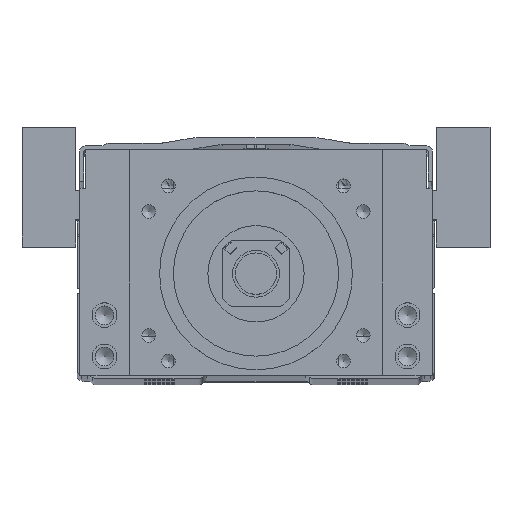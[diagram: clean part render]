
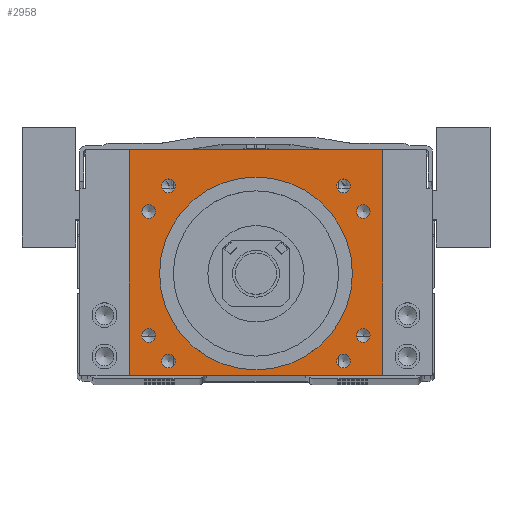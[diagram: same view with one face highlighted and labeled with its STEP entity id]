
A CAD part, top view. The second image highlights one B-rep face of the part: STEP entity #2958.
In plain terms, the highlighted planar face has unit normal (0, 0, 1).
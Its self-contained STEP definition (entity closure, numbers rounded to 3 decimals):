
#2958=ADVANCED_FACE('',(#7543,#7544,#7545,#7546,#7547,#7548,#7549,#7550,
#7551,#7552),#3894,.T.);
#3894=PLANE('',#20354);
#4349=LINE('',#26914,#5788);
#4946=LINE('',#30719,#6418);
#4947=LINE('',#30721,#6419);
#4948=LINE('',#30723,#6420);
#5788=VECTOR('',#21639,1.);
#6418=VECTOR('',#23633,1.);
#6419=VECTOR('',#23634,1.);
#6420=VECTOR('',#23635,1.);
#7543=FACE_BOUND('',#8873,.T.);
#7544=FACE_BOUND('',#8874,.T.);
#7545=FACE_BOUND('',#8875,.T.);
#7546=FACE_BOUND('',#8876,.T.);
#7547=FACE_BOUND('',#8877,.T.);
#7548=FACE_BOUND('',#8878,.T.);
#7549=FACE_BOUND('',#8879,.T.);
#7550=FACE_BOUND('',#8880,.T.);
#7551=FACE_BOUND('',#8881,.T.);
#7552=FACE_BOUND('',#8882,.T.);
#8873=EDGE_LOOP('',(#12047,#12048,#12049,#12050));
#8874=EDGE_LOOP('',(#12051));
#8875=EDGE_LOOP('',(#12052));
#8876=EDGE_LOOP('',(#12053));
#8877=EDGE_LOOP('',(#12054));
#8878=EDGE_LOOP('',(#12055));
#8879=EDGE_LOOP('',(#12056));
#8880=EDGE_LOOP('',(#12057));
#8881=EDGE_LOOP('',(#12058));
#8882=EDGE_LOOP('',(#12059));
#12047=ORIENTED_EDGE('',*,*,#17650,.T.);
#12048=ORIENTED_EDGE('',*,*,#16597,.T.);
#12049=ORIENTED_EDGE('',*,*,#17651,.T.);
#12050=ORIENTED_EDGE('',*,*,#17652,.T.);
#12051=ORIENTED_EDGE('',*,*,#17647,.F.);
#12052=ORIENTED_EDGE('',*,*,#17645,.T.);
#12053=ORIENTED_EDGE('',*,*,#17643,.T.);
#12054=ORIENTED_EDGE('',*,*,#17649,.F.);
#12055=ORIENTED_EDGE('',*,*,#17653,.F.);
#12056=ORIENTED_EDGE('',*,*,#17607,.T.);
#12057=ORIENTED_EDGE('',*,*,#17606,.T.);
#12058=ORIENTED_EDGE('',*,*,#17604,.T.);
#12059=ORIENTED_EDGE('',*,*,#17601,.T.);
#14776=VERTEX_POINT('',#26913);
#14777=VERTEX_POINT('',#26915);
#15488=VERTEX_POINT('',#30599);
#15492=VERTEX_POINT('',#30608);
#15495=VERTEX_POINT('',#30615);
#15496=VERTEX_POINT('',#30618);
#15522=VERTEX_POINT('',#30696);
#15525=VERTEX_POINT('',#30703);
#15528=VERTEX_POINT('',#30710);
#15531=VERTEX_POINT('',#30717);
#15532=VERTEX_POINT('',#30720);
#15533=VERTEX_POINT('',#30722);
#15534=VERTEX_POINT('',#30725);
#16597=EDGE_CURVE('',#14777,#14776,#4349,.T.);
#17601=EDGE_CURVE('',#15488,#15488,#19157,.T.);
#17604=EDGE_CURVE('',#15492,#15492,#19160,.T.);
#17606=EDGE_CURVE('',#15495,#15495,#19162,.T.);
#17607=EDGE_CURVE('',#15496,#15496,#19163,.T.);
#17643=EDGE_CURVE('',#15522,#15522,#19174,.T.);
#17645=EDGE_CURVE('',#15525,#15525,#19176,.T.);
#17647=EDGE_CURVE('',#15528,#15528,#19178,.T.);
#17649=EDGE_CURVE('',#15531,#15531,#19180,.T.);
#17650=EDGE_CURVE('',#15532,#14777,#4946,.T.);
#17651=EDGE_CURVE('',#14776,#15533,#4947,.T.);
#17652=EDGE_CURVE('',#15533,#15532,#4948,.T.);
#17653=EDGE_CURVE('',#15534,#15534,#19181,.T.);
#19157=CIRCLE('',#20301,2.5);
#19160=CIRCLE('',#20306,2.5);
#19162=CIRCLE('',#20310,2.5);
#19163=CIRCLE('',#20312,2.5);
#19174=CIRCLE('',#20339,2.5);
#19176=CIRCLE('',#20343,2.5);
#19178=CIRCLE('',#20347,2.5);
#19180=CIRCLE('',#20351,2.5);
#19181=CIRCLE('',#20353,35.015);
#20301=AXIS2_PLACEMENT_3D('',#30598,#23504,#23505);
#20306=AXIS2_PLACEMENT_3D('',#30607,#23514,#23515);
#20310=AXIS2_PLACEMENT_3D('',#30614,#23522,#23523);
#20312=AXIS2_PLACEMENT_3D('',#30617,#23526,#23527);
#20339=AXIS2_PLACEMENT_3D('',#30695,#23605,#23606);
#20343=AXIS2_PLACEMENT_3D('',#30702,#23613,#23614);
#20347=AXIS2_PLACEMENT_3D('',#30709,#23621,#23622);
#20351=AXIS2_PLACEMENT_3D('',#30716,#23629,#23630);
#20353=AXIS2_PLACEMENT_3D('',#30724,#23636,#23637);
#20354=AXIS2_PLACEMENT_3D('',#30726,#23638,#23639);
#21639=DIRECTION('',(-1.,0.,0.));
#23504=DIRECTION('',(0.,0.,-1.));
#23505=DIRECTION('',(1.,0.,0.));
#23514=DIRECTION('',(0.,0.,-1.));
#23515=DIRECTION('',(1.,0.,0.));
#23522=DIRECTION('',(0.,0.,-1.));
#23523=DIRECTION('',(1.,0.,0.));
#23526=DIRECTION('',(0.,0.,-1.));
#23527=DIRECTION('',(1.,0.,0.));
#23605=DIRECTION('',(0.,0.,-1.));
#23606=DIRECTION('',(1.,0.,0.));
#23613=DIRECTION('',(0.,0.,-1.));
#23614=DIRECTION('',(1.,0.,0.));
#23621=DIRECTION('',(0.,0.,1.));
#23622=DIRECTION('',(-1.,0.,0.));
#23629=DIRECTION('',(0.,0.,1.));
#23630=DIRECTION('',(-1.,0.,0.));
#23633=DIRECTION('',(0.,1.,0.));
#23634=DIRECTION('',(0.,-1.,0.));
#23635=DIRECTION('',(1.,0.,0.));
#23636=DIRECTION('',(0.,0.,1.));
#23637=DIRECTION('',(1.,0.,0.));
#23638=DIRECTION('',(0.,0.,1.));
#23639=DIRECTION('',(-1.,0.,0.));
#26913=CARTESIAN_POINT('',(-46.,83.,100.));
#26914=CARTESIAN_POINT('',(0.,83.,100.));
#26915=CARTESIAN_POINT('',(46.,83.,100.));
#30598=CARTESIAN_POINT('',(31.82,69.82,100.));
#30599=CARTESIAN_POINT('',(34.32,69.82,100.));
#30607=CARTESIAN_POINT('',(31.82,6.18,100.));
#30608=CARTESIAN_POINT('',(34.32,6.18,100.));
#30614=CARTESIAN_POINT('',(-31.82,6.18,100.));
#30615=CARTESIAN_POINT('',(-29.32,6.18,100.));
#30617=CARTESIAN_POINT('',(-31.82,69.82,100.));
#30618=CARTESIAN_POINT('',(-29.32,69.82,100.));
#30695=CARTESIAN_POINT('',(38.971,15.5,100.));
#30696=CARTESIAN_POINT('',(41.471,15.5,100.));
#30702=CARTESIAN_POINT('',(38.971,60.5,100.));
#30703=CARTESIAN_POINT('',(41.471,60.5,100.));
#30709=CARTESIAN_POINT('',(-38.971,15.5,100.));
#30710=CARTESIAN_POINT('',(-41.471,15.5,100.));
#30716=CARTESIAN_POINT('',(-38.971,60.5,100.));
#30717=CARTESIAN_POINT('',(-41.471,60.5,100.));
#30719=CARTESIAN_POINT('',(46.,38.,100.));
#30720=CARTESIAN_POINT('',(46.,1.,100.));
#30721=CARTESIAN_POINT('',(-46.,38.,100.));
#30722=CARTESIAN_POINT('',(-46.,1.,100.));
#30723=CARTESIAN_POINT('',(0.,1.,100.));
#30724=CARTESIAN_POINT('',(0.,38.,100.));
#30725=CARTESIAN_POINT('',(35.015,38.,100.));
#30726=CARTESIAN_POINT('',(0.,38.,100.));
